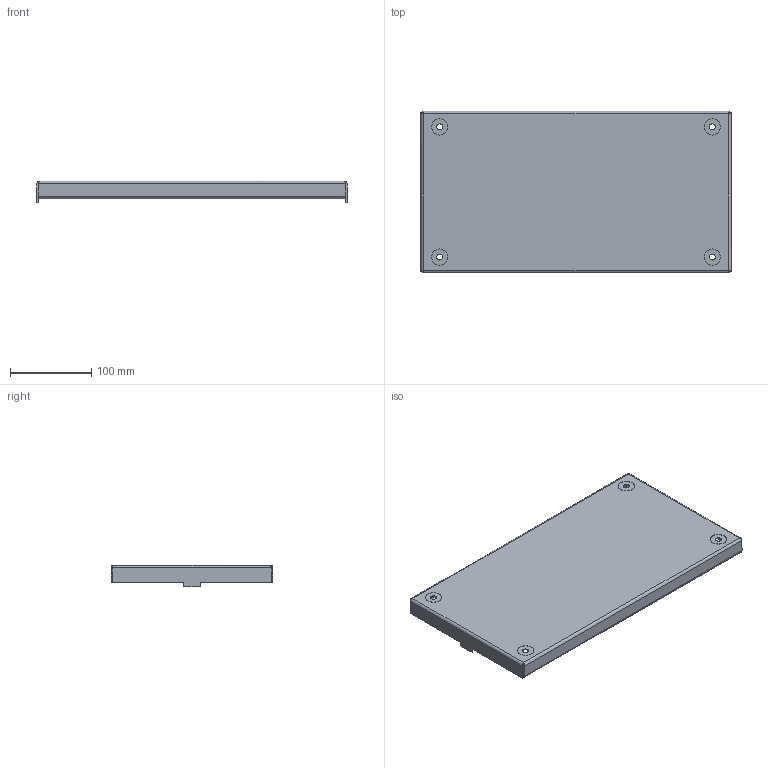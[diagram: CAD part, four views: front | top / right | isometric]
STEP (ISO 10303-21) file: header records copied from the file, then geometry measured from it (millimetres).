
FILE_DESCRIPTION (( 'STEP AP203' ), '1' );
FILE_NAME ('ESB.9.745531.034_esb4264_1_Ïàíåëü öîêîëÿ Âðó pro 200x500 (ìîä1).STEP', '2023-04-03T05:58:45', ( '' ), ( '' ), 'SwSTEP 2.0', 'SolidWorks 2020', '' );
FILE_SCHEMA (( 'CONFIG_CONTROL_DESIGN' ));
Length unit declared in the file: millimetre
Products named in the file (1): ESB.9.745531.034_esb4264_1_Ïàíåëü öîêîëÿ Âðó pro 200x500 (ìîä1)
Bounding box: 381.3 x 199 x 26.5 mm (x, y, z)
Volume: 145929.8 mm3; surface area: 211621.9 mm2
Topology: 1 solids, 1 shells, 138 faces, 348 edges, 216 vertices
Faces by surface type: cylinder 84, plane 46, bspline 8
Entity records: 4857 total; most frequent: CARTESIAN_POINT 1271, DIRECTION 746, ORIENTED_EDGE 696, EDGE_CURVE 348, AXIS2_PLACEMENT_3D 283, VERTEX_POINT 216, EDGE_LOOP 206, LINE 180
